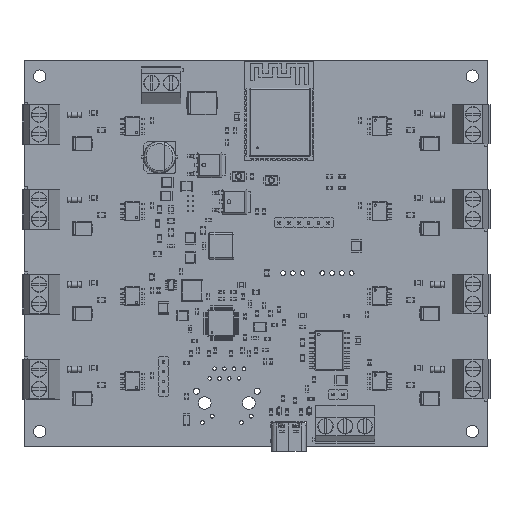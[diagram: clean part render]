
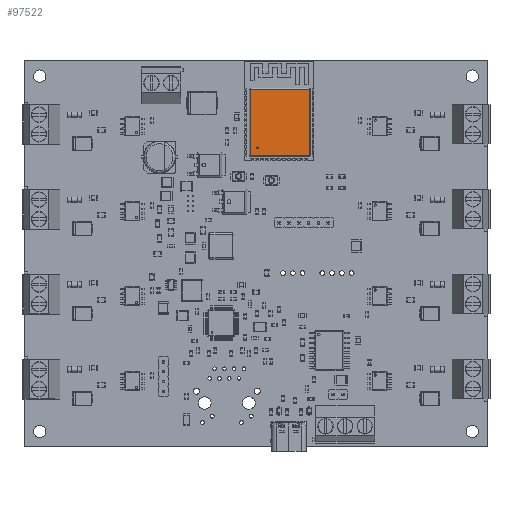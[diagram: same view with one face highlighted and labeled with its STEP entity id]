
A CAD part, top view. The second image highlights one B-rep face of the part: STEP entity #97522.
In plain terms, the highlighted planar face has unit normal (0, 0, 1).
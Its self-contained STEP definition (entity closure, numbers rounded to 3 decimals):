
#97346 = VERTEX_POINT('',#97347);
#97347 = CARTESIAN_POINT('',(-7.55,5.65,3.1));
#97354 = EDGE_CURVE('',#97346,#97355,#97357,.T.);
#97355 = VERTEX_POINT('',#97356);
#97356 = CARTESIAN_POINT('',(7.75,5.65,3.1));
#97357 = LINE('',#97358,#97359);
#97358 = CARTESIAN_POINT('',(-7.8,5.65,3.1));
#97359 = VECTOR('',#97360,1.);
#97360 = DIRECTION('',(1.,0.,0.));
#97522 = ADVANCED_FACE('',(#97523,#97548),#97559,.T.);
#97523 = FACE_BOUND('',#97524,.T.);
#97524 = EDGE_LOOP('',(#97525,#97535,#97541,#97542));
#97525 = ORIENTED_EDGE('',*,*,#97526,.F.);
#97526 = EDGE_CURVE('',#97527,#97529,#97531,.T.);
#97527 = VERTEX_POINT('',#97528);
#97528 = CARTESIAN_POINT('',(7.75,-11.45,3.1));
#97529 = VERTEX_POINT('',#97530);
#97530 = CARTESIAN_POINT('',(-7.55,-11.45,3.1));
#97531 = LINE('',#97532,#97533);
#97532 = CARTESIAN_POINT('',(8.,-11.45,3.1));
#97533 = VECTOR('',#97534,1.);
#97534 = DIRECTION('',(-1.,0.,0.));
#97535 = ORIENTED_EDGE('',*,*,#97536,.F.);
#97536 = EDGE_CURVE('',#97355,#97527,#97537,.T.);
#97537 = LINE('',#97538,#97539);
#97538 = CARTESIAN_POINT('',(7.75,5.9,3.1));
#97539 = VECTOR('',#97540,1.);
#97540 = DIRECTION('',(0.,-1.,0.));
#97541 = ORIENTED_EDGE('',*,*,#97354,.F.);
#97542 = ORIENTED_EDGE('',*,*,#97543,.F.);
#97543 = EDGE_CURVE('',#97529,#97346,#97544,.T.);
#97544 = LINE('',#97545,#97546);
#97545 = CARTESIAN_POINT('',(-7.55,-11.7,3.1));
#97546 = VECTOR('',#97547,1.);
#97547 = DIRECTION('',(0.,1.,0.));
#97548 = FACE_BOUND('',#97549,.T.);
#97549 = EDGE_LOOP('',(#97550));
#97550 = ORIENTED_EDGE('',*,*,#97551,.F.);
#97551 = EDGE_CURVE('',#97552,#97552,#97554,.T.);
#97552 = VERTEX_POINT('',#97553);
#97553 = CARTESIAN_POINT('',(-5.35,-9.6,3.1));
#97554 = CIRCLE('',#97555,0.25);
#97555 = AXIS2_PLACEMENT_3D('',#97556,#97557,#97558);
#97556 = CARTESIAN_POINT('',(-5.6,-9.6,3.1));
#97557 = DIRECTION('',(0.,0.,1.));
#97558 = DIRECTION('',(1.,0.,-0.));
#97559 = PLANE('',#97560);
#97560 = AXIS2_PLACEMENT_3D('',#97561,#97562,#97563);
#97561 = CARTESIAN_POINT('',(0.1,-2.9,3.1));
#97562 = DIRECTION('',(0.,0.,1.));
#97563 = DIRECTION('',(1.,0.,-0.));
